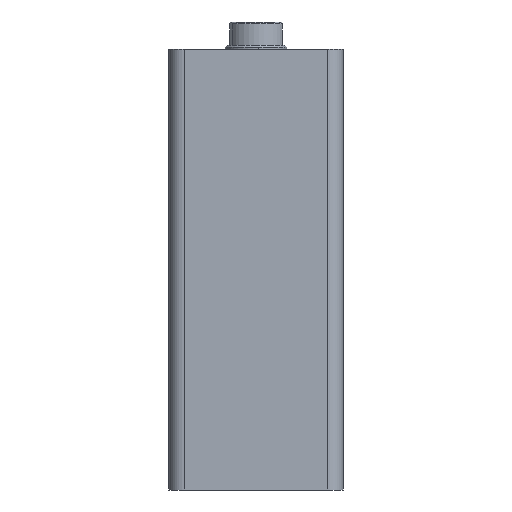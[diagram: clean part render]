
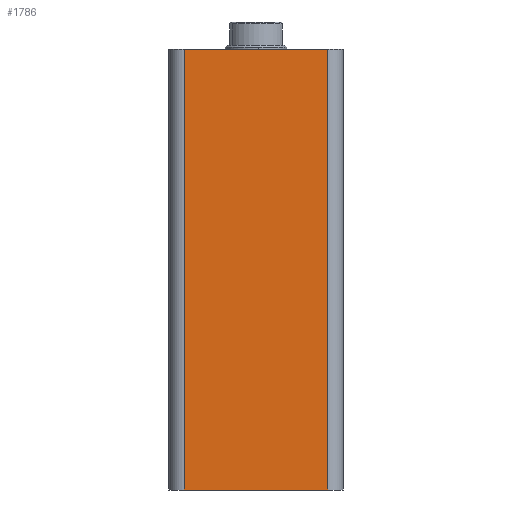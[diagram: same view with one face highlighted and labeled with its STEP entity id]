
A CAD part, front view. The second image highlights one B-rep face of the part: STEP entity #1786.
In plain terms, the highlighted planar face has unit normal (0, -1, 0).
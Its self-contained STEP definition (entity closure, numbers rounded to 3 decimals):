
#369 = DIRECTION ( 'NONE',  ( 0., 0., 1. ) ) ;
#1059 = VERTEX_POINT ( 'NONE', #1204 ) ;
#1152 = LINE ( 'NONE', #2602, #11103 ) ;
#1204 = CARTESIAN_POINT ( 'NONE',  ( 41., 0., 0. ) ) ;
#1225 = DIRECTION ( 'NONE',  ( 1., 0., 0. ) ) ;
#1786 = ADVANCED_FACE ( 'NONE', ( #4455 ), #9562, .F. ) ;
#1853 = ORIENTED_EDGE ( 'NONE', *, *, #15924, .F. ) ;
#2390 = AXIS2_PLACEMENT_3D ( 'NONE', #9485, #14530, #369 ) ;
#2504 = LINE ( 'NONE', #12899, #15662 ) ;
#2597 = EDGE_CURVE ( 'NONE', #10147, #16467, #1152, .T. ) ;
#2602 = CARTESIAN_POINT ( 'NONE',  ( 4., 0., 114. ) ) ;
#3073 = DIRECTION ( 'NONE',  ( 1., 0., 0. ) ) ;
#4265 = VERTEX_POINT ( 'NONE', #13240 ) ;
#4429 = CARTESIAN_POINT ( 'NONE',  ( 41., 0., 114. ) ) ;
#4455 = FACE_OUTER_BOUND ( 'NONE', #7236, .T. ) ;
#4555 = ORIENTED_EDGE ( 'NONE', *, *, #2597, .T. ) ;
#5478 = EDGE_CURVE ( 'NONE', #1059, #4265, #11073, .T. ) ;
#5995 = CARTESIAN_POINT ( 'NONE',  ( 4., 0., 114. ) ) ;
#6701 = CARTESIAN_POINT ( 'NONE',  ( 4., 0., 0. ) ) ;
#7236 = EDGE_LOOP ( 'NONE', ( #7494, #13396, #1853, #4555 ) ) ;
#7494 = ORIENTED_EDGE ( 'NONE', *, *, #7896, .T. ) ;
#7785 = DIRECTION ( 'NONE',  ( 0., 0., -1. ) ) ;
#7896 = EDGE_CURVE ( 'NONE', #16467, #1059, #9545, .T. ) ;
#9485 = CARTESIAN_POINT ( 'NONE',  ( 0., 0., 114. ) ) ;
#9545 = LINE ( 'NONE', #14758, #11875 ) ;
#9562 = PLANE ( 'NONE',  #2390 ) ;
#10147 = VERTEX_POINT ( 'NONE', #5995 ) ;
#11073 = LINE ( 'NONE', #4429, #14924 ) ;
#11103 = VECTOR ( 'NONE', #7785, 1000. ) ;
#11875 = VECTOR ( 'NONE', #3073, 1000. ) ;
#12899 = CARTESIAN_POINT ( 'NONE',  ( 0., 0., 114. ) ) ;
#13240 = CARTESIAN_POINT ( 'NONE',  ( 41., 0., 114. ) ) ;
#13396 = ORIENTED_EDGE ( 'NONE', *, *, #5478, .T. ) ;
#14530 = DIRECTION ( 'NONE',  ( 0., 1., 0. ) ) ;
#14758 = CARTESIAN_POINT ( 'NONE',  ( 0., 0., 0. ) ) ;
#14924 = VECTOR ( 'NONE', #15011, 1000. ) ;
#15011 = DIRECTION ( 'NONE',  ( 0., 0., 1. ) ) ;
#15662 = VECTOR ( 'NONE', #1225, 1000. ) ;
#15924 = EDGE_CURVE ( 'NONE', #10147, #4265, #2504, .T. ) ;
#16467 = VERTEX_POINT ( 'NONE', #6701 ) ;
